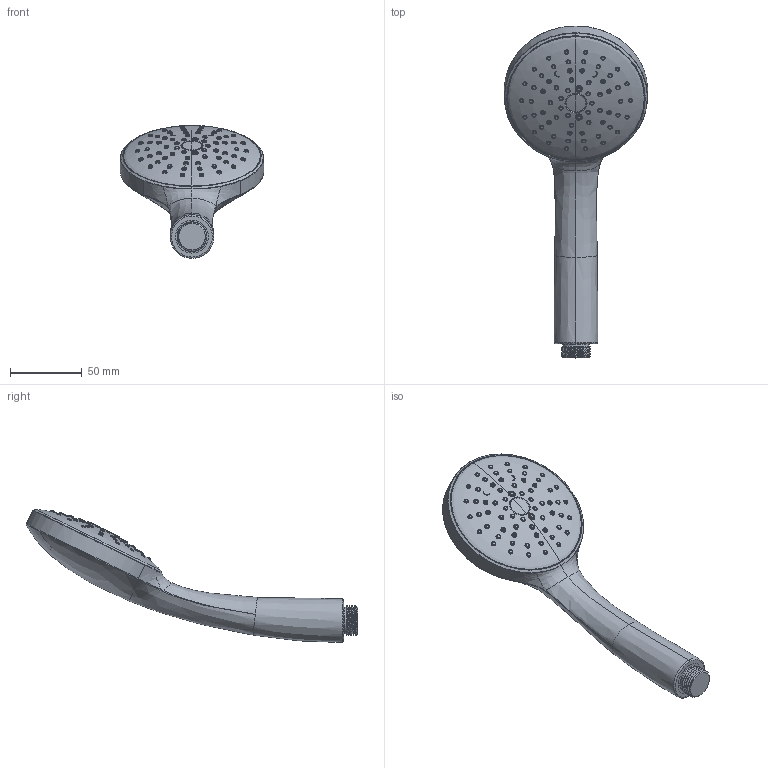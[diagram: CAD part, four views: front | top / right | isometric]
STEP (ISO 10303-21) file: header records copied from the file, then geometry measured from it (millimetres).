
FILE_DESCRIPTION((''),'2;1');
FILE_NAME('76672--_SUB01_SW0001','2026-10-06T15:51:41',('simi1'),(''),'CREO PARAMETRIC BY PTC INC, 2022244','CREO PARAMETRIC BY PTC INC, 2022244','');
FILE_SCHEMA(('CONFIG_CONTROL_DESIGN'));
Length unit declared in the file: millimetre
Products named in the file (1): 76672--_SUB01_SW0001
Bounding box: 99.83 x 231.21 x 92.66 mm (x, y, z)
Surface area: 39424.1 mm2 (no closed solid volume)
Topology: 0 solids, 73 shells, 456 faces, 1250 edges, 851 vertices
Faces by surface type: cone 176, torus 147, plane 59, bspline 47, cylinder 19, revolution 8
Entity records: 22778 total; most frequent: CARTESIAN_POINT 11508, DIRECTION 2451, ORIENTED_EDGE 2281, EDGE_CURVE 1248, AXIS2_PLACEMENT_3D 1119, VERTEX_POINT 851, CIRCLE 718, EDGE_LOOP 456
